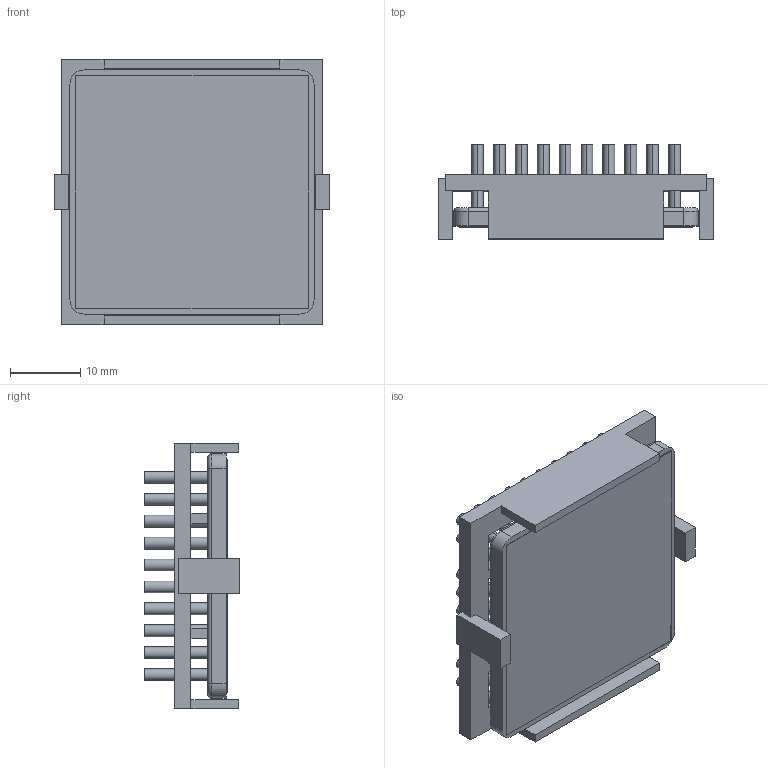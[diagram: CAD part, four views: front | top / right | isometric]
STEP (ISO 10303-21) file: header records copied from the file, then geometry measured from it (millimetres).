
FILE_DESCRIPTION (( 'STEP AP214' ), '1' );
FILE_NAME ('INM35002-12PCU-2.6BU.STEP', '2023-02-28T22:49:31', ( '' ), ( '' ), 'SwSTEP 2.0', 'SolidWorks 2020', '' );
FILE_SCHEMA (( 'AUTOMOTIVE_DESIGN' ));
Length unit declared in the file: inch
Products named in the file (1): INM35002-12PCU-2.6BU
Bounding box: 39.2 x 13.5 x 37.7 mm (x, y, z)
Volume: 6907.2 mm3; surface area: 12062.3 mm2
Topology: 3 solids, 3 shells, 354 faces, 760 edges, 504 vertices
Faces by surface type: cylinder 192, plane 158, torus 4
Entity records: 14416 total; most frequent: DIRECTION 1858, CARTESIAN_POINT 1619, ORIENTED_EDGE 1520, EDGE_CURVE 760, AXIS2_PLACEMENT_3D 743, VERTEX_POINT 504, EDGE_LOOP 448, CIRCLE 388
